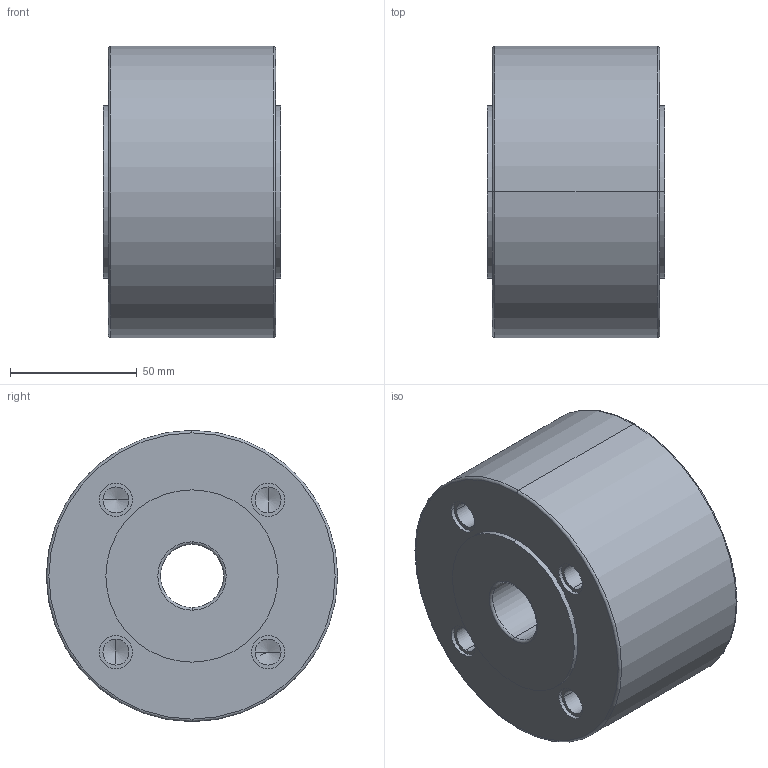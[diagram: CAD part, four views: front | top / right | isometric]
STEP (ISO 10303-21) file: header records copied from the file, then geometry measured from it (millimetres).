
FILE_DESCRIPTION (( 'STEP AP203' ), '1' );
FILE_NAME ('W8_PN10_DN025.STEP', '2012-10-31T06:55:35', ( 'luca.saino' ), ( 'Hewlett-Packard Company' ), 'SwSTEP 2.0', 'SolidWorks 2012', '' );
FILE_SCHEMA (( 'CONFIG_CONTROL_DESIGN' ));
Length unit declared in the file: millimetre
Products named in the file (1): W8_PN10_DN025
Bounding box: 70 x 115 x 115 mm (x, y, z)
Volume: 654323.7 mm3; surface area: 53735.8 mm2
Topology: 1 solids, 1 shells, 76 faces, 168 edges, 96 vertices
Faces by surface type: cylinder 40, cone 16, plane 12, torus 8
Entity records: 2085 total; most frequent: DIRECTION 402, CARTESIAN_POINT 325, ORIENTED_EDGE 304, AXIS2_PLACEMENT_3D 173, EDGE_CURVE 152, VERTEX_POINT 96, EDGE_LOOP 96, CIRCLE 96
